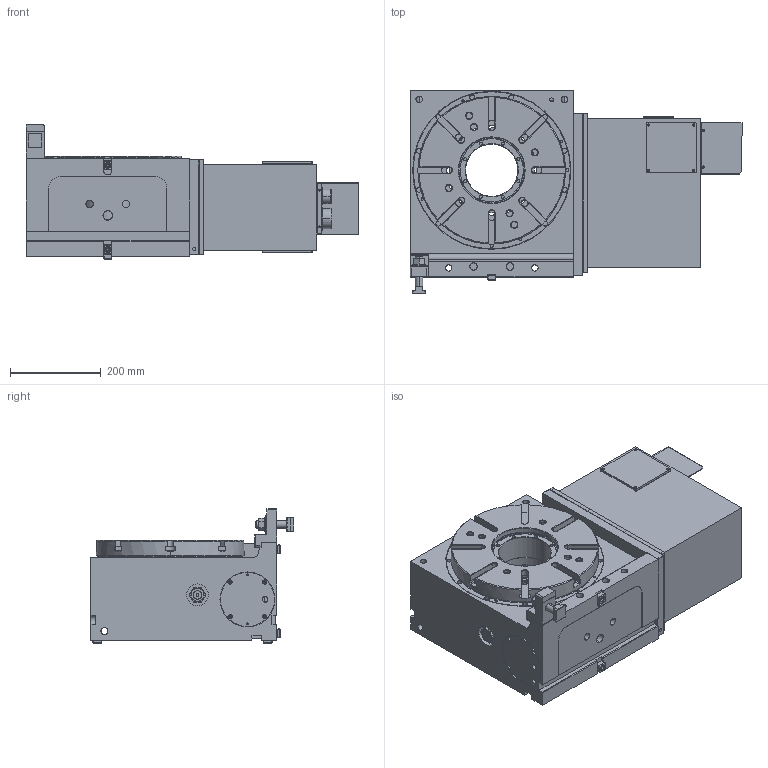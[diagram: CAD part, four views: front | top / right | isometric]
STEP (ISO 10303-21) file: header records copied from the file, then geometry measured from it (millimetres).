
FILE_DESCRIPTION (( 'STEP AP203' ), '1' );
FILE_NAME ('15121378-MDH323R-09.STEP', '2020-11-25T22:46:57', ( '' ), ( '' ), 'SwSTEP 2.0', 'SolidWorks 2019', '' );
FILE_SCHEMA (( 'CONFIG_CONTROL_DESIGN' ));
Length unit declared in the file: millimetre
Products named in the file (1): 15121378-MDH323R-09
Bounding box: 731 x 447.8 x 297 mm (x, y, z)
Surface area: 1569124 mm2 (no closed solid volume)
Topology: 0 solids, 55 shells, 948 faces, 3031 edges, 2106 vertices
Faces by surface type: cylinder 433, plane 359, cone 130, torus 14, bspline 12
Entity records: 34986 total; most frequent: CARTESIAN_POINT 7316, DIRECTION 6237, ORIENTED_EDGE 4887, EDGE_CURVE 3027, AXIS2_PLACEMENT_3D 2370, VERTEX_POINT 2106, VECTOR 1497, LINE 1497
